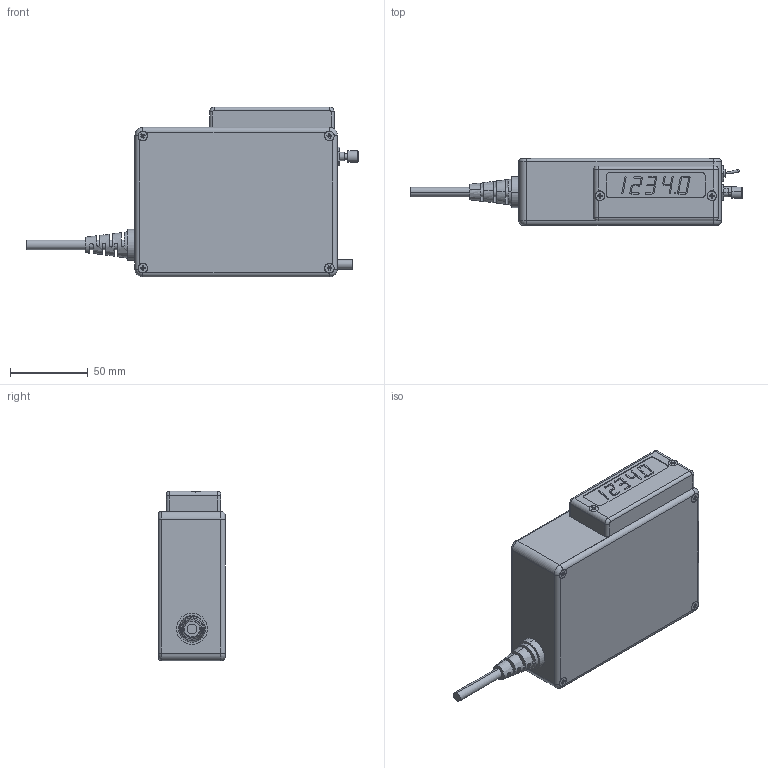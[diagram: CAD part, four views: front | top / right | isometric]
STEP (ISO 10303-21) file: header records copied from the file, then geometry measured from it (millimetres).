
FILE_DESCRIPTION (( 'STEP AP214' ), '1' );
FILE_NAME ('DMR100A_Assem0.STEP', '2024-08-20T01:06:18', ( '' ), ( '' ), 'SwSTEP 2.0', 'SolidWorks 2023', '' );
FILE_SCHEMA (( 'AUTOMOTIVE_DESIGN' ));
Length unit declared in the file: millimetre
Products named in the file (7): ナット_Part3; トルグスイッチ_Part5; DMR100A_Part1; Flat Head SCREW M3 X6 MM; DMR100A_Part2; プッシュボタン_Part4; DMR100A_Assem0
Assembly tree (16 placements, depth 2):
  DMR100A_Assem0
    DMR100A_Part1
    トルグスイッチ_Part5
    ナット_Part3  x2
    プッシュボタン_Part4
    Flat Head SCREW M3 X6 MM  x10
    DMR100A_Part2
Bounding box: 213.33 x 43 x 109 mm (x, y, z)
Volume: 573730.1 mm3; surface area: 77692 mm2
Topology: 16 solids, 16 shells, 648 faces, 1727 edges, 1168 vertices
Faces by surface type: plane 353, cylinder 153, cone 76, bspline 52, torus 14
Entity records: 14845 total; most frequent: CARTESIAN_POINT 3562, ORIENTED_EDGE 2308, DIRECTION 2243, EDGE_CURVE 1154, LINE 771, VECTOR 771, VERTEX_POINT 762, AXIS2_PLACEMENT_3D 736
